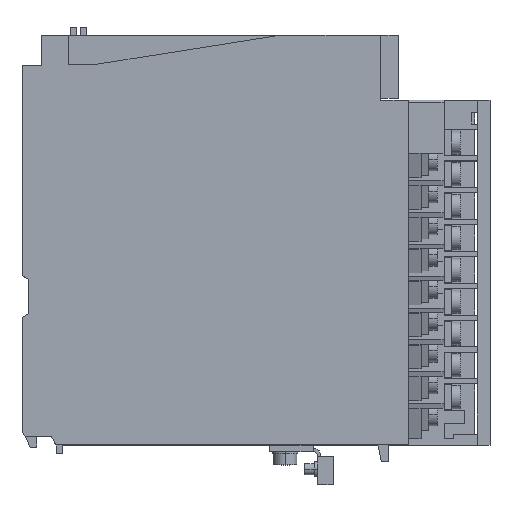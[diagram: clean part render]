
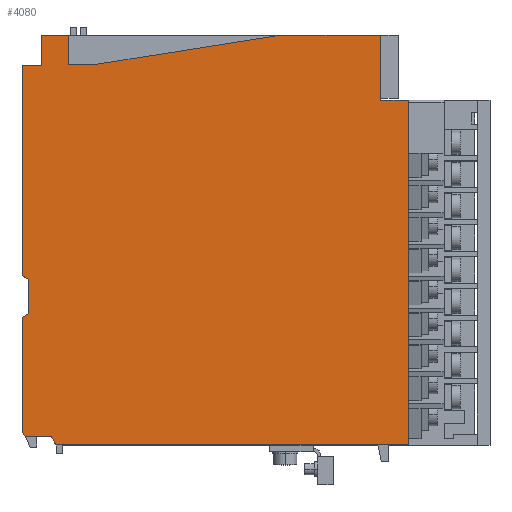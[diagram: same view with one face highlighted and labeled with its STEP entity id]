
A CAD part, top view. The second image highlights one B-rep face of the part: STEP entity #4080.
In plain terms, the highlighted planar face has unit normal (0, 0, 1).
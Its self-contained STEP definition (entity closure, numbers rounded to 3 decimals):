
#548 = VERTEX_POINT ( 'NONE', #7168 ) ;
#561 = EDGE_CURVE ( 'NONE', #548, #584, #7220, .T. ) ;
#584 = VERTEX_POINT ( 'NONE', #7237 ) ;
#1419 = DIRECTION ( 'NONE',  ( 1., 0., 0. ) ) ;
#1420 = DIRECTION ( 'NONE',  ( 0., 0., 1. ) ) ;
#1421 = CARTESIAN_POINT ( 'NONE',  ( 78.8, -49., 13.7 ) ) ;
#1422 = AXIS2_PLACEMENT_3D ( 'NONE', #1421, #1420, #1419 ) ;
#1423 = PLANE ( 'NONE',  #1422 ) ;
#1424 = FACE_OUTER_BOUND ( 'NONE', #4038, .T. ) ;
#1461 = CARTESIAN_POINT ( 'NONE',  ( 61.396, 49., 13.7 ) ) ;
#1469 = DIRECTION ( 'NONE',  ( -1., 0., 0. ) ) ;
#1470 = VECTOR ( 'NONE', #1469, 1000. ) ;
#1471 = CARTESIAN_POINT ( 'NONE',  ( 78.8, 49., 13.7 ) ) ;
#1472 = LINE ( 'NONE', #1471, #1470 ) ;
#1514 = CARTESIAN_POINT ( 'NONE',  ( 0., -8.511, 13.7 ) ) ;
#1515 = CARTESIAN_POINT ( 'NONE',  ( 1.5, -9.377, 13.7 ) ) ;
#1516 = DIRECTION ( 'NONE',  ( -0.866, 0.5, 0. ) ) ;
#1517 = VECTOR ( 'NONE', #1516, 1000. ) ;
#1518 = CARTESIAN_POINT ( 'NONE',  ( 76.632, -52.755, 13.7 ) ) ;
#1519 = LINE ( 'NONE', #1518, #1517 ) ;
#1520 = CARTESIAN_POINT ( 'NONE',  ( 1.5, -17.589, 13.7 ) ) ;
#1521 = DIRECTION ( 'NONE',  ( 0., 1., 0. ) ) ;
#1522 = VECTOR ( 'NONE', #1521, 1000. ) ;
#1523 = CARTESIAN_POINT ( 'NONE',  ( 1.5, -49., 13.7 ) ) ;
#1524 = LINE ( 'NONE', #1523, #1522 ) ;
#1668 = CARTESIAN_POINT ( 'NONE',  ( 0., 41.8, 13.7 ) ) ;
#1669 = DIRECTION ( 'NONE',  ( 0., -1., 0. ) ) ;
#1670 = VECTOR ( 'NONE', #1669, 1000. ) ;
#1671 = CARTESIAN_POINT ( 'NONE',  ( 0., 49., 13.7 ) ) ;
#1672 = LINE ( 'NONE', #1671, #1670 ) ;
#1733 = DIRECTION ( 'NONE',  ( 1., 0., 0. ) ) ;
#1734 = VECTOR ( 'NONE', #1733, 1000. ) ;
#1735 = CARTESIAN_POINT ( 'NONE',  ( 78.8, 41.8, 13.7 ) ) ;
#1736 = LINE ( 'NONE', #1735, #1734 ) ;
#1755 = CARTESIAN_POINT ( 'NONE',  ( 4.6, 41.8, 13.7 ) ) ;
#1772 = DIRECTION ( 'NONE',  ( 0., 1., 0. ) ) ;
#1773 = VECTOR ( 'NONE', #1772, 1000. ) ;
#1774 = CARTESIAN_POINT ( 'NONE',  ( 4.6, -49., 13.7 ) ) ;
#1775 = LINE ( 'NONE', #1774, #1773 ) ;
#4034 = ORIENTED_EDGE ( 'NONE', *, *, #4551, .F. ) ;
#4038 = EDGE_LOOP ( 'NONE', ( #4034, #4512, #4520, #4516, #4500, #4497, #4498, #4254, #4201, #4148, #4143, #4140, #5965, #5968, #5971, #5974, #5976, #5977, #5980 ) ) ;
#4080 = ADVANCED_FACE ( 'NONE', ( #1424 ), #1423, .T. ) ;
#4096 = EDGE_CURVE ( 'NONE', #5986, #4101, #1472, .T. ) ;
#4101 = VERTEX_POINT ( 'NONE', #1461 ) ;
#4140 = ORIENTED_EDGE ( 'NONE', *, *, #5963, .F. ) ;
#4142 = EDGE_CURVE ( 'NONE', #4144, #4146, #1524, .T. ) ;
#4143 = ORIENTED_EDGE ( 'NONE', *, *, #4142, .F. ) ;
#4144 = VERTEX_POINT ( 'NONE', #1520 ) ;
#4145 = EDGE_CURVE ( 'NONE', #4146, #4147, #1519, .T. ) ;
#4146 = VERTEX_POINT ( 'NONE', #1515 ) ;
#4147 = VERTEX_POINT ( 'NONE', #1514 ) ;
#4148 = ORIENTED_EDGE ( 'NONE', *, *, #4145, .F. ) ;
#4201 = ORIENTED_EDGE ( 'NONE', *, *, #4215, .T. ) ;
#4215 = EDGE_CURVE ( 'NONE', #4216, #4147, #1672, .T. ) ;
#4216 = VERTEX_POINT ( 'NONE', #1668 ) ;
#4254 = ORIENTED_EDGE ( 'NONE', *, *, #4264, .F. ) ;
#4264 = EDGE_CURVE ( 'NONE', #4216, #4288, #1736, .T. ) ;
#4274 = EDGE_CURVE ( 'NONE', #4288, #5957, #1775, .T. ) ;
#4288 = VERTEX_POINT ( 'NONE', #1755 ) ;
#4497 = ORIENTED_EDGE ( 'NONE', *, *, #5992, .T. ) ;
#4498 = ORIENTED_EDGE ( 'NONE', *, *, #4274, .F. ) ;
#4500 = ORIENTED_EDGE ( 'NONE', *, *, #4504, .F. ) ;
#4501 = VERTEX_POINT ( 'NONE', #7570 ) ;
#4504 = EDGE_CURVE ( 'NONE', #4509, #4501, #7564, .T. ) ;
#4509 = VERTEX_POINT ( 'NONE', #7555 ) ;
#4511 = VERTEX_POINT ( 'NONE', #7553 ) ;
#4512 = ORIENTED_EDGE ( 'NONE', *, *, #4096, .T. ) ;
#4513 = VERTEX_POINT ( 'NONE', #7552 ) ;
#4515 = EDGE_CURVE ( 'NONE', #4501, #4513, #7551, .T. ) ;
#4516 = ORIENTED_EDGE ( 'NONE', *, *, #4515, .F. ) ;
#4519 = EDGE_CURVE ( 'NONE', #4513, #4101, #7609, .T. ) ;
#4520 = ORIENTED_EDGE ( 'NONE', *, *, #4519, .F. ) ;
#4551 = EDGE_CURVE ( 'NONE', #5986, #4511, #7617, .T. ) ;
#5957 = VERTEX_POINT ( 'NONE', #9983 ) ;
#5963 = EDGE_CURVE ( 'NONE', #5964, #4144, #9968, .T. ) ;
#5964 = VERTEX_POINT ( 'NONE', #9963 ) ;
#5965 = ORIENTED_EDGE ( 'NONE', *, *, #5966, .T. ) ;
#5966 = EDGE_CURVE ( 'NONE', #5964, #5967, #9964, .T. ) ;
#5967 = VERTEX_POINT ( 'NONE', #10021 ) ;
#5968 = ORIENTED_EDGE ( 'NONE', *, *, #5969, .F. ) ;
#5969 = EDGE_CURVE ( 'NONE', #5970, #5967, #10020, .T. ) ;
#5970 = VERTEX_POINT ( 'NONE', #10016 ) ;
#5971 = ORIENTED_EDGE ( 'NONE', *, *, #5972, .F. ) ;
#5972 = EDGE_CURVE ( 'NONE', #5973, #5970, #10015, .T. ) ;
#5973 = VERTEX_POINT ( 'NONE', #10011 ) ;
#5974 = ORIENTED_EDGE ( 'NONE', *, *, #5975, .F. ) ;
#5975 = EDGE_CURVE ( 'NONE', #548, #5973, #10010, .T. ) ;
#5976 = ORIENTED_EDGE ( 'NONE', *, *, #561, .T. ) ;
#5977 = ORIENTED_EDGE ( 'NONE', *, *, #5978, .F. ) ;
#5978 = EDGE_CURVE ( 'NONE', #5979, #584, #10006, .T. ) ;
#5979 = VERTEX_POINT ( 'NONE', #10002 ) ;
#5980 = ORIENTED_EDGE ( 'NONE', *, *, #5981, .T. ) ;
#5981 = EDGE_CURVE ( 'NONE', #5979, #4511, #10001, .T. ) ;
#5986 = VERTEX_POINT ( 'NONE', #9994 ) ;
#5992 = EDGE_CURVE ( 'NONE', #4509, #5957, #10053, .T. ) ;
#7168 = CARTESIAN_POINT ( 'NONE',  ( 8.15, -49., 13.7 ) ) ;
#7217 = DIRECTION ( 'NONE',  ( 1., 0., 0. ) ) ;
#7218 = VECTOR ( 'NONE', #7217, 1000. ) ;
#7219 = CARTESIAN_POINT ( 'NONE',  ( 78.8, -49., 13.7 ) ) ;
#7220 = LINE ( 'NONE', #7219, #7218 ) ;
#7237 = CARTESIAN_POINT ( 'NONE',  ( 92.5, -49., 13.7 ) ) ;
#7548 = DIRECTION ( 'NONE',  ( 1., 0., 0. ) ) ;
#7549 = VECTOR ( 'NONE', #7548, 1000. ) ;
#7550 = CARTESIAN_POINT ( 'NONE',  ( 11.1, 42., 13.7 ) ) ;
#7551 = LINE ( 'NONE', #7550, #7549 ) ;
#7552 = CARTESIAN_POINT ( 'NONE',  ( 17.2, 42., 13.7 ) ) ;
#7553 = CARTESIAN_POINT ( 'NONE',  ( 85.8, 33.5, 13.7 ) ) ;
#7555 = CARTESIAN_POINT ( 'NONE',  ( 11.1, 49., 13.7 ) ) ;
#7561 = DIRECTION ( 'NONE',  ( 0., -1., 0. ) ) ;
#7562 = VECTOR ( 'NONE', #7561, 1000. ) ;
#7563 = CARTESIAN_POINT ( 'NONE',  ( 11.1, 49., 13.7 ) ) ;
#7564 = LINE ( 'NONE', #7563, #7562 ) ;
#7570 = CARTESIAN_POINT ( 'NONE',  ( 11.1, 42., 13.7 ) ) ;
#7606 = DIRECTION ( 'NONE',  ( 0.988, 0.156, 0. ) ) ;
#7607 = VECTOR ( 'NONE', #7606, 1000. ) ;
#7608 = CARTESIAN_POINT ( 'NONE',  ( 17.2, 42., 13.7 ) ) ;
#7609 = LINE ( 'NONE', #7608, #7607 ) ;
#7614 = DIRECTION ( 'NONE',  ( 0., -1., 0. ) ) ;
#7615 = VECTOR ( 'NONE', #7614, 1000. ) ;
#7616 = CARTESIAN_POINT ( 'NONE',  ( 85.8, 34., 13.7 ) ) ;
#7617 = LINE ( 'NONE', #7616, #7615 ) ;
#9963 = CARTESIAN_POINT ( 'NONE',  ( 0., -18.455, 13.7 ) ) ;
#9964 = LINE ( 'NONE', #10024, #10023 ) ;
#9965 = DIRECTION ( 'NONE',  ( 0.866, 0.5, 0. ) ) ;
#9966 = VECTOR ( 'NONE', #9965, 1000. ) ;
#9967 = CARTESIAN_POINT ( 'NONE',  ( 45.873, 8.03, 13.7 ) ) ;
#9968 = LINE ( 'NONE', #9967, #9966 ) ;
#9983 = CARTESIAN_POINT ( 'NONE',  ( 4.6, 49., 13.7 ) ) ;
#9994 = CARTESIAN_POINT ( 'NONE',  ( 85.8, 49., 13.7 ) ) ;
#9998 = DIRECTION ( 'NONE',  ( -1., 0., 0. ) ) ;
#9999 = VECTOR ( 'NONE', #9998, 1000. ) ;
#10000 = CARTESIAN_POINT ( 'NONE',  ( 92.5, 33.5, 13.7 ) ) ;
#10001 = LINE ( 'NONE', #10000, #9999 ) ;
#10002 = CARTESIAN_POINT ( 'NONE',  ( 92.5, 33.5, 13.7 ) ) ;
#10003 = DIRECTION ( 'NONE',  ( 0., -1., 0. ) ) ;
#10004 = VECTOR ( 'NONE', #10003, 1000. ) ;
#10005 = CARTESIAN_POINT ( 'NONE',  ( 92.5, 33.5, 13.7 ) ) ;
#10006 = LINE ( 'NONE', #10005, #10004 ) ;
#10007 = DIRECTION ( 'NONE',  ( -0.5, 0.866, 0. ) ) ;
#10008 = VECTOR ( 'NONE', #10007, 1000. ) ;
#10009 = CARTESIAN_POINT ( 'NONE',  ( 25.813, -79.592, 13.7 ) ) ;
#10010 = LINE ( 'NONE', #10009, #10008 ) ;
#10011 = CARTESIAN_POINT ( 'NONE',  ( 6.995, -47., 13.7 ) ) ;
#10012 = DIRECTION ( 'NONE',  ( -1., 0., 0. ) ) ;
#10013 = VECTOR ( 'NONE', #10012, 1000. ) ;
#10014 = CARTESIAN_POINT ( 'NONE',  ( 78.8, -47., 13.7 ) ) ;
#10015 = LINE ( 'NONE', #10014, #10013 ) ;
#10016 = CARTESIAN_POINT ( 'NONE',  ( 0.73, -47., 13.7 ) ) ;
#10017 = DIRECTION ( 'NONE',  ( -0.454, 0.891, 0. ) ) ;
#10018 = VECTOR ( 'NONE', #10017, 1000. ) ;
#10019 = CARTESIAN_POINT ( 'NONE',  ( 17.63, -80.168, 13.7 ) ) ;
#10020 = LINE ( 'NONE', #10019, #10018 ) ;
#10021 = CARTESIAN_POINT ( 'NONE',  ( 0., -45.567, 13.7 ) ) ;
#10022 = DIRECTION ( 'NONE',  ( 0., -1., 0. ) ) ;
#10023 = VECTOR ( 'NONE', #10022, 1000. ) ;
#10024 = CARTESIAN_POINT ( 'NONE',  ( 0., 49., 13.7 ) ) ;
#10050 = DIRECTION ( 'NONE',  ( -1., 0., 0. ) ) ;
#10051 = VECTOR ( 'NONE', #10050, 1000. ) ;
#10052 = CARTESIAN_POINT ( 'NONE',  ( 78.8, 49., 13.7 ) ) ;
#10053 = LINE ( 'NONE', #10052, #10051 ) ;
